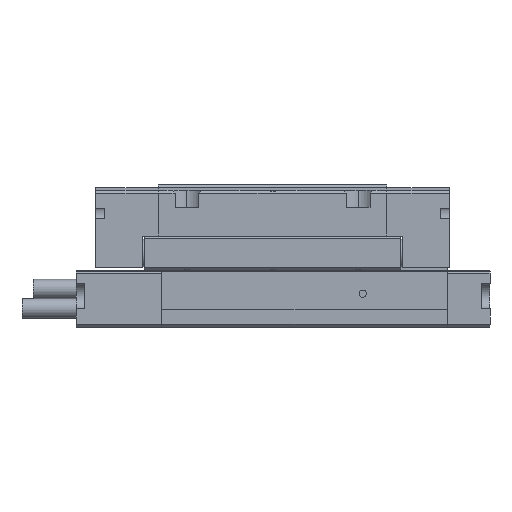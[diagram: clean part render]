
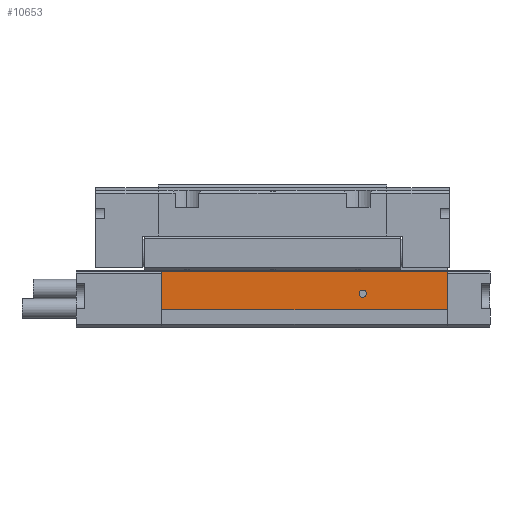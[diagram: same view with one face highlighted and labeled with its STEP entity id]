
A CAD part, front view. The second image highlights one B-rep face of the part: STEP entity #10653.
In plain terms, the highlighted planar face has unit normal (0, -1, 0) as drawn and (1, 0, 0) by its records, which use the part's own axes.
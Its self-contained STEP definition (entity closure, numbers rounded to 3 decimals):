
#832 = CIRCLE ( 'NONE', #3886, 0.625 ) ;
#1048 = EDGE_LOOP ( 'NONE', ( #10590, #12699, #20219, #1674 ) ) ;
#1087 = CARTESIAN_POINT ( 'NONE',  ( 9.653, -0.654, 6.9 ) ) ;
#1202 = VECTOR ( 'NONE', #14412, 1000. ) ;
#1292 = EDGE_CURVE ( 'NONE', #20356, #20546, #1860, .T. ) ;
#1626 = FACE_OUTER_BOUND ( 'NONE', #1048, .T. ) ;
#1674 = ORIENTED_EDGE ( 'NONE', *, *, #1292, .T. ) ;
#1788 = VERTEX_POINT ( 'NONE', #15709 ) ;
#1860 = LINE ( 'NONE', #13069, #5678 ) ;
#2360 = ORIENTED_EDGE ( 'NONE', *, *, #11011, .F. ) ;
#2528 = CARTESIAN_POINT ( 'NONE',  ( 9.653, 0., 0. ) ) ;
#2810 = VERTEX_POINT ( 'NONE', #6782 ) ;
#2939 = AXIS2_PLACEMENT_3D ( 'NONE', #2528, #10646, #5812 ) ;
#3086 = CIRCLE ( 'NONE', #17604, 0.625 ) ;
#3094 = LINE ( 'NONE', #5990, #11233 ) ;
#3886 = AXIS2_PLACEMENT_3D ( 'NONE', #17412, #7709, #19035 ) ;
#4713 = DIRECTION ( 'NONE',  ( 0., 1., 0. ) ) ;
#5098 = CARTESIAN_POINT ( 'NONE',  ( 9.653, -50.654, 6.9 ) ) ;
#5629 = EDGE_CURVE ( 'NONE', #2810, #12055, #3086, .T. ) ;
#5678 = VECTOR ( 'NONE', #4713, 1000. ) ;
#5812 = DIRECTION ( 'NONE',  ( 0., -1., 0. ) ) ;
#5990 = CARTESIAN_POINT ( 'NONE',  ( 9.653, -50.654, 2. ) ) ;
#6350 = CARTESIAN_POINT ( 'NONE',  ( 9.653, -0.654, 2. ) ) ;
#6541 = EDGE_LOOP ( 'NONE', ( #8427, #2360 ) ) ;
#6782 = CARTESIAN_POINT ( 'NONE',  ( 9.653, -35.854, 3.475 ) ) ;
#7227 = CARTESIAN_POINT ( 'NONE',  ( 9.653, -35.854, 4.725 ) ) ;
#7272 = DIRECTION ( 'NONE',  ( 1., 0., 0. ) ) ;
#7413 = LINE ( 'NONE', #1087, #11232 ) ;
#7624 = DIRECTION ( 'NONE',  ( 0., 0., 1. ) ) ;
#7709 = DIRECTION ( 'NONE',  ( 1., 0., 0. ) ) ;
#8427 = ORIENTED_EDGE ( 'NONE', *, *, #5629, .F. ) ;
#10310 = CARTESIAN_POINT ( 'NONE',  ( 9.653, -0.654, 0.3 ) ) ;
#10350 = LINE ( 'NONE', #6350, #1202 ) ;
#10590 = ORIENTED_EDGE ( 'NONE', *, *, #16606, .T. ) ;
#10646 = DIRECTION ( 'NONE',  ( -1., 0., 0. ) ) ;
#10653 = ADVANCED_FACE ( 'NONE', ( #18360, #1626 ), #15496, .F. ) ;
#10842 = DIRECTION ( 'NONE',  ( 0., 1., 0. ) ) ;
#10932 = CARTESIAN_POINT ( 'NONE',  ( 9.653, -50.654, 0.3 ) ) ;
#11011 = EDGE_CURVE ( 'NONE', #12055, #2810, #832, .T. ) ;
#11232 = VECTOR ( 'NONE', #10842, 1000. ) ;
#11233 = VECTOR ( 'NONE', #7624, 1000. ) ;
#12055 = VERTEX_POINT ( 'NONE', #7227 ) ;
#12699 = ORIENTED_EDGE ( 'NONE', *, *, #12721, .F. ) ;
#12721 = EDGE_CURVE ( 'NONE', #13848, #1788, #7413, .T. ) ;
#13069 = CARTESIAN_POINT ( 'NONE',  ( 9.653, -0.654, 0.3 ) ) ;
#13848 = VERTEX_POINT ( 'NONE', #5098 ) ;
#14412 = DIRECTION ( 'NONE',  ( 0., 0., 1. ) ) ;
#15496 = PLANE ( 'NONE',  #2939 ) ;
#15709 = CARTESIAN_POINT ( 'NONE',  ( 9.653, -0.654, 6.9 ) ) ;
#16606 = EDGE_CURVE ( 'NONE', #20546, #1788, #10350, .T. ) ;
#16961 = CARTESIAN_POINT ( 'NONE',  ( 9.653, -35.854, 4.1 ) ) ;
#17412 = CARTESIAN_POINT ( 'NONE',  ( 9.653, -35.854, 4.1 ) ) ;
#17604 = AXIS2_PLACEMENT_3D ( 'NONE', #16961, #7272, #18601 ) ;
#18360 = FACE_BOUND ( 'NONE', #6541, .T. ) ;
#18601 = DIRECTION ( 'NONE',  ( 0., 0., -1. ) ) ;
#19035 = DIRECTION ( 'NONE',  ( 0., 0., -1. ) ) ;
#19784 = EDGE_CURVE ( 'NONE', #20356, #13848, #3094, .T. ) ;
#20219 = ORIENTED_EDGE ( 'NONE', *, *, #19784, .F. ) ;
#20356 = VERTEX_POINT ( 'NONE', #10932 ) ;
#20546 = VERTEX_POINT ( 'NONE', #10310 ) ;
